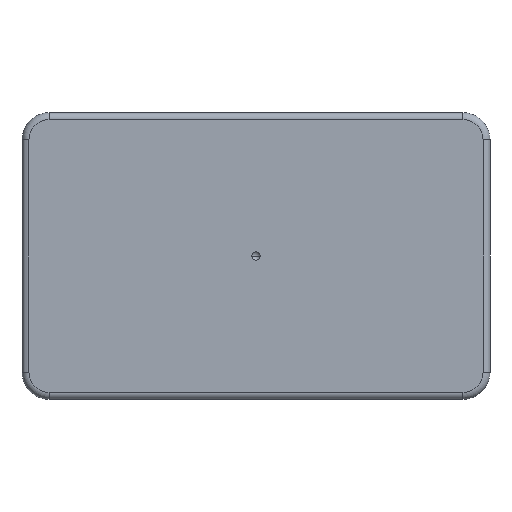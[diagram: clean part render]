
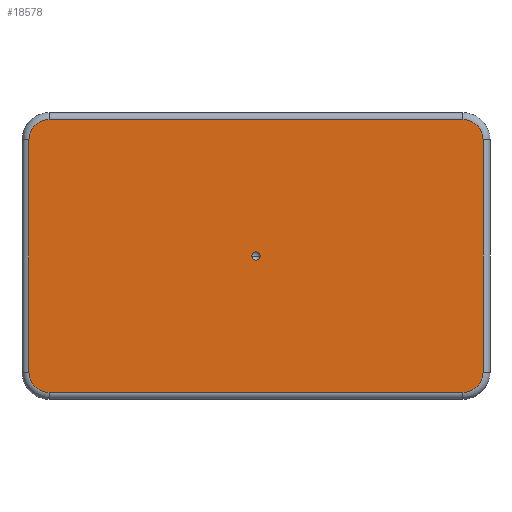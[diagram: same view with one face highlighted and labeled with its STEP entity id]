
A CAD part, front view. The second image highlights one B-rep face of the part: STEP entity #18578.
In plain terms, the highlighted planar face has unit normal (0, -1, 0).
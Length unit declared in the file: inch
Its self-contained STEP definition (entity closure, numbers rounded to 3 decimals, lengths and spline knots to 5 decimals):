
#3014 = CARTESIAN_POINT ( 'NONE',  ( -3.7135, -3.01, -2.44748 ) ) ;
#3015 = CARTESIAN_POINT ( 'NONE',  ( 3.7135, -3.01, -2.44748 ) ) ;
#3016 = CARTESIAN_POINT ( 'NONE',  ( 4.07498, -3.01, -2.086 ) ) ;
#3017 = CARTESIAN_POINT ( 'NONE',  ( 4.07498, -3.01, 2.086 ) ) ;
#3018 = CARTESIAN_POINT ( 'NONE',  ( 3.7135, -3.01, 2.44748 ) ) ;
#3019 = CARTESIAN_POINT ( 'NONE',  ( -3.7135, -3.01, 2.44748 ) ) ;
#3020 = CARTESIAN_POINT ( 'NONE',  ( -4.07498, -3.01, 2.086 ) ) ;
#3021 = CARTESIAN_POINT ( 'NONE',  ( -4.07498, -3.01, -2.086 ) ) ;
#4776 = VERTEX_POINT ( 'NONE', #3021 ) ;
#4777 = VERTEX_POINT ( 'NONE', #3020 ) ;
#4778 = VERTEX_POINT ( 'NONE', #3019 ) ;
#4779 = VERTEX_POINT ( 'NONE', #3018 ) ;
#4780 = VERTEX_POINT ( 'NONE', #3017 ) ;
#4781 = VERTEX_POINT ( 'NONE', #3016 ) ;
#4782 = VERTEX_POINT ( 'NONE', #3015 ) ;
#4783 = VERTEX_POINT ( 'NONE', #3014 ) ;
#4996 = VERTEX_POINT ( 'NONE', #5738 ) ;
#4997 = VERTEX_POINT ( 'NONE', #5737 ) ;
#5737 = CARTESIAN_POINT ( 'NONE',  ( -0.07502, -3.01, 0. ) ) ;
#5738 = CARTESIAN_POINT ( 'NONE',  ( 0.07502, -3.01, 0. ) ) ;
#5941 = EDGE_CURVE ( 'NONE', #4781, #4780, #20376, .T. ) ;
#5943 = EDGE_CURVE ( 'NONE', #4780, #4779, #20380, .T. ) ;
#5945 = EDGE_CURVE ( 'NONE', #4996, #4997, #20382, .T. ) ;
#5946 = EDGE_CURVE ( 'NONE', #4783, #4782, #20381, .T. ) ;
#5949 = EDGE_CURVE ( 'NONE', #4778, #4777, #20385, .T. ) ;
#5951 = EDGE_CURVE ( 'NONE', #4777, #4776, #20377, .T. ) ;
#5953 = EDGE_CURVE ( 'NONE', #4776, #4783, #20387, .T. ) ;
#6965 = DIRECTION ( 'NONE',  ( 0., 0., -1. ) ) ;
#6967 = DIRECTION ( 'NONE',  ( 0., -1., 0. ) ) ;
#6974 = DIRECTION ( 'NONE',  ( 0., 0., -1. ) ) ;
#6976 = CARTESIAN_POINT ( 'NONE',  ( -4.07498, -3.01, -2.086 ) ) ;
#6987 = DIRECTION ( 'NONE',  ( 0., 0., -1. ) ) ;
#6989 = DIRECTION ( 'NONE',  ( 0., -1., 0. ) ) ;
#6995 = DIRECTION ( 'NONE',  ( 1., 0., 0. ) ) ;
#6999 = CARTESIAN_POINT ( 'NONE',  ( -3.7135, -3.01, 2.086 ) ) ;
#7001 = DIRECTION ( 'NONE',  ( -1., 0., 0. ) ) ;
#7004 = DIRECTION ( 'NONE',  ( 0., 1., 0. ) ) ;
#7005 = CARTESIAN_POINT ( 'NONE',  ( -3.7135, -3.01, -2.086 ) ) ;
#7008 = DIRECTION ( 'NONE',  ( 0., 0., -1. ) ) ;
#7010 = DIRECTION ( 'NONE',  ( 0., -1., 0. ) ) ;
#7011 = CARTESIAN_POINT ( 'NONE',  ( 3.7135, -3.01, -2.44748 ) ) ;
#7014 = CARTESIAN_POINT ( 'NONE',  ( 3.7135, -3.01, 2.086 ) ) ;
#7019 = DIRECTION ( 'NONE',  ( 0., 0., 1. ) ) ;
#7023 = CARTESIAN_POINT ( 'NONE',  ( 0., -3.01, 0. ) ) ;
#7025 = CARTESIAN_POINT ( 'NONE',  ( 4.07498, -3.01, 2.086 ) ) ;
#7367 = AXIS2_PLACEMENT_3D ( 'NONE', #7005, #6967, #6965 ) ;
#7368 = AXIS2_PLACEMENT_3D ( 'NONE', #6999, #6989, #6987 ) ;
#7371 = AXIS2_PLACEMENT_3D ( 'NONE', #7014, #7010, #7008 ) ;
#7374 = AXIS2_PLACEMENT_3D ( 'NONE', #7023, #7004, #7001 ) ;
#9848 = AXIS2_PLACEMENT_3D ( 'NONE', #15600, #15602, #15603 ) ;
#9962 = AXIS2_PLACEMENT_3D ( 'NONE', #11532, #11536, #11537 ) ;
#10380 = VECTOR ( 'NONE', #11533, 39.37008 ) ;
#10384 = LINE ( 'NONE', #11516, #10380 ) ;
#10388 = CIRCLE ( 'NONE', #9962, 0.36148 ) ;
#10959 = FACE_BOUND ( 'NONE', #24227, .T. ) ;
#10966 = FACE_OUTER_BOUND ( 'NONE', #24148, .T. ) ;
#11516 = CARTESIAN_POINT ( 'NONE',  ( -3.7135, -3.01, 2.44748 ) ) ;
#11532 = CARTESIAN_POINT ( 'NONE',  ( 3.7135, -3.01, -2.086 ) ) ;
#11533 = DIRECTION ( 'NONE',  ( -1., 0., 0. ) ) ;
#11536 = DIRECTION ( 'NONE',  ( 0., -1., 0. ) ) ;
#11537 = DIRECTION ( 'NONE',  ( 0., 0., -1. ) ) ;
#15600 = CARTESIAN_POINT ( 'NONE',  ( 0., -3.01, 0. ) ) ;
#15602 = DIRECTION ( 'NONE',  ( 0., 1., 0. ) ) ;
#15603 = DIRECTION ( 'NONE',  ( -1., 0., 0. ) ) ;
#16712 = EDGE_CURVE ( 'NONE', #4997, #4996, #27694, .T. ) ;
#16941 = EDGE_CURVE ( 'NONE', #4779, #4778, #10384, .T. ) ;
#16942 = EDGE_CURVE ( 'NONE', #4782, #4781, #10388, .T. ) ;
#18578 = ADVANCED_FACE ( 'NONE', ( #10959, #10966 ), #27989, .T. ) ;
#20248 = ORIENTED_EDGE ( 'NONE', *, *, #5945, .T. ) ;
#20249 = ORIENTED_EDGE ( 'NONE', *, *, #16712, .T. ) ;
#20250 = ORIENTED_EDGE ( 'NONE', *, *, #5946, .T. ) ;
#20251 = ORIENTED_EDGE ( 'NONE', *, *, #16942, .T. ) ;
#20252 = ORIENTED_EDGE ( 'NONE', *, *, #5941, .T. ) ;
#20253 = ORIENTED_EDGE ( 'NONE', *, *, #5943, .T. ) ;
#20254 = ORIENTED_EDGE ( 'NONE', *, *, #16941, .T. ) ;
#20255 = ORIENTED_EDGE ( 'NONE', *, *, #5949, .T. ) ;
#20256 = ORIENTED_EDGE ( 'NONE', *, *, #5951, .T. ) ;
#20257 = ORIENTED_EDGE ( 'NONE', *, *, #5953, .T. ) ;
#20375 = VECTOR ( 'NONE', #7019, 39.37008 ) ;
#20376 = LINE ( 'NONE', #7025, #20375 ) ;
#20377 = LINE ( 'NONE', #6976, #20378 ) ;
#20378 = VECTOR ( 'NONE', #6974, 39.37008 ) ;
#20379 = VECTOR ( 'NONE', #6995, 39.37008 ) ;
#20380 = CIRCLE ( 'NONE', #7371, 0.36148 ) ;
#20381 = LINE ( 'NONE', #7011, #20379 ) ;
#20382 = CIRCLE ( 'NONE', #7374, 0.07502 ) ;
#20385 = CIRCLE ( 'NONE', #7368, 0.36148 ) ;
#20387 = CIRCLE ( 'NONE', #7367, 0.36148 ) ;
#24148 = EDGE_LOOP ( 'NONE', ( #20250, #20251, #20252, #20253, #20254, #20255, #20256, #20257 ) ) ;
#24227 = EDGE_LOOP ( 'NONE', ( #20248, #20249 ) ) ;
#27694 = CIRCLE ( 'NONE', #9848, 0.07502 ) ;
#27988 = CARTESIAN_POINT ( 'NONE',  ( -3.7135, -3.01, 2.086 ) ) ;
#27989 = PLANE ( 'NONE',  #28868 ) ;
#27990 = DIRECTION ( 'NONE',  ( 0., -1., 0. ) ) ;
#27991 = DIRECTION ( 'NONE',  ( 0., 0., -1. ) ) ;
#28868 = AXIS2_PLACEMENT_3D ( 'NONE', #27988, #27990, #27991 ) ;
